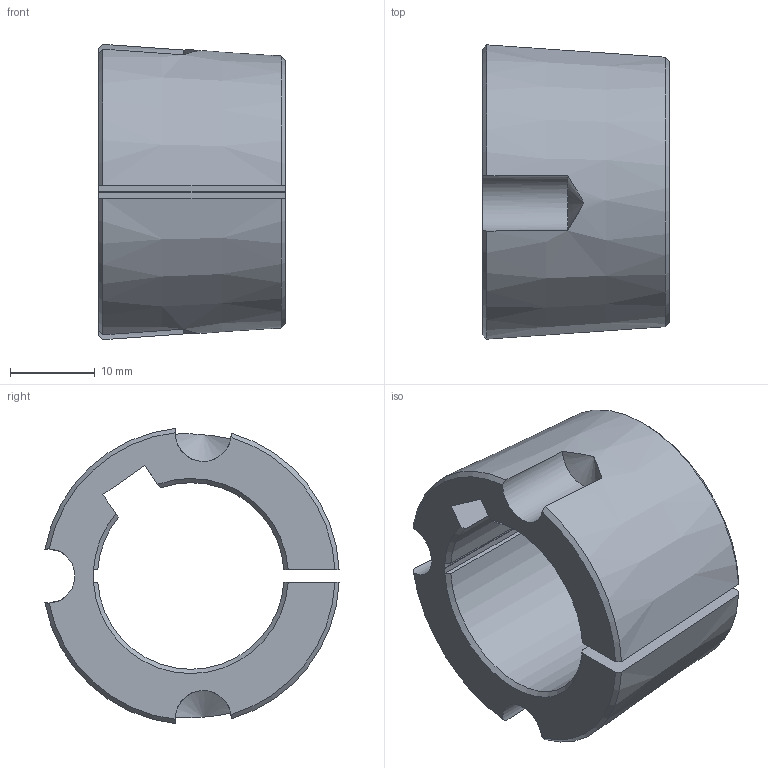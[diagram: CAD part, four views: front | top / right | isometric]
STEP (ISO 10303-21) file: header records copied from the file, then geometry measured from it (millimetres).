
FILE_DESCRIPTION(/* description */ (''),/* implementation_level */ '2;1');
FILE_NAME(/* name */ 'C:\Users\stagistaCAD\Desktop\Nuova cartella\29100822.stp',/* time_stamp */ '2018-06-27T11:00:56+02:00',/* author */ ('stagistacad'),/* organization */ (''),/* preprocessor_version */ 'ST-DEVELOPER v15.6',/* originating_system */ 'Autodesk Inventor 2015',/* authorisation */ '');
FILE_SCHEMA (('AUTOMOTIVE_DESIGN { 1 0 10303 214 3 1 1 }'));
Length unit declared in the file: millimetre
Products named in the file (1): 29100822
Bounding box: 22 x 34.69 x 34.82 mm (x, y, z)
Volume: 9728.4 mm3; surface area: 5149.2 mm2
Topology: 1 solids, 1 shells, 36 faces, 102 edges, 68 vertices
Faces by surface type: cone 16, plane 11, cylinder 9
Entity records: 1260 total; most frequent: CARTESIAN_POINT 335, ORIENTED_EDGE 204, DIRECTION 182, EDGE_CURVE 102, AXIS2_PLACEMENT_3D 73, VERTEX_POINT 68, LINE 36, VECTOR 36
